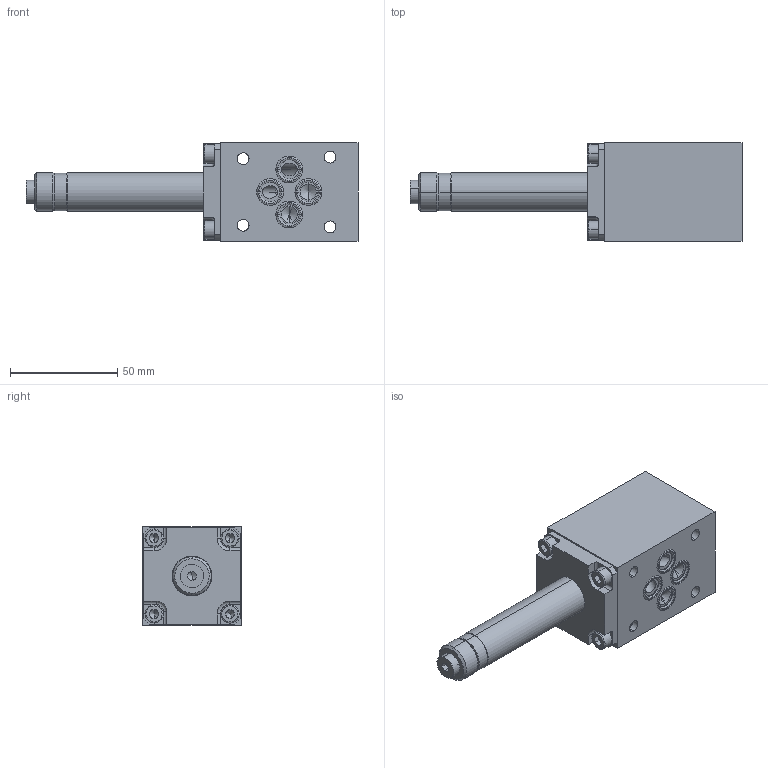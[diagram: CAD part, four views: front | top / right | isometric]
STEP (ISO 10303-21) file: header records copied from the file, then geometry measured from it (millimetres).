
FILE_DESCRIPTION (( 'STEP AP214' ), '1' );
FILE_NAME ('AEXd22061a-K9.STEP', '2018-07-04T14:00:08', ( '' ), ( '' ), 'SwSTEP 2.0', 'SolidWorks 2016', '' );
FILE_SCHEMA (( 'AUTOMOTIVE_DESIGN' ));
Length unit declared in the file: millimetre
Products named in the file (2): AEXd22061a-K9
Bounding box: 154.6 x 46 x 46 mm (x, y, z)
Volume: 161470 mm3; surface area: 36878.5 mm2
Topology: 14 solids, 15 shells, 711 faces, 1810 edges, 1139 vertices
Faces by surface type: plane 410, cylinder 149, cone 70, bspline 46, torus 36
Entity records: 30340 total; most frequent: CARTESIAN_POINT 5209, ORIENTED_EDGE 3560, DIRECTION 3555, EDGE_CURVE 1780, AXIS2_PLACEMENT_3D 1199, VECTOR 1157, LINE 1157, VERTEX_POINT 1139
